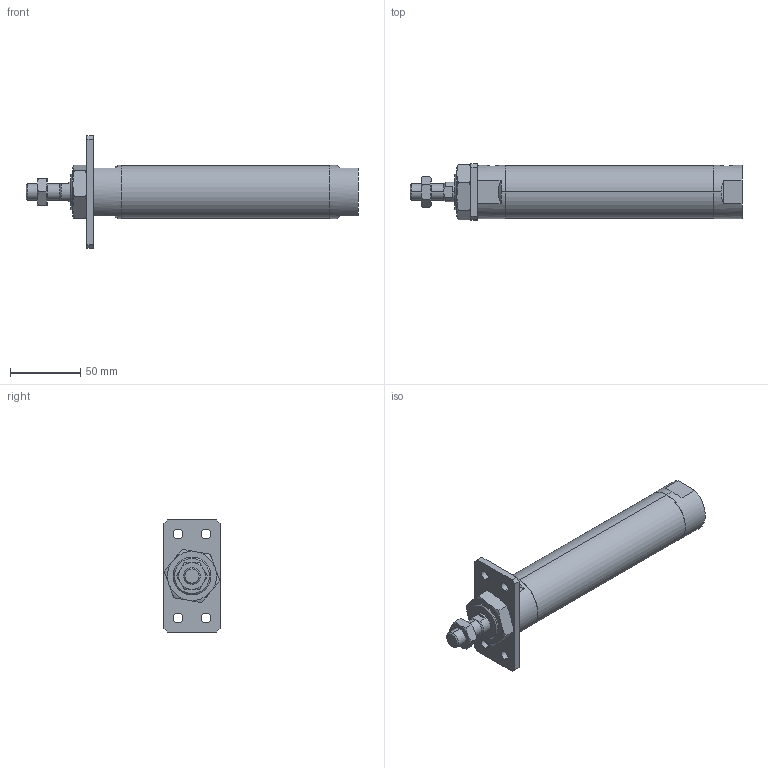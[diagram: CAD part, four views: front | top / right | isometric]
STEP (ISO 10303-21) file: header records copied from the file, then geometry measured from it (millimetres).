
FILE_DESCRIPTION (( 'STEP AP203' ), '1' );
FILE_NAME ('JGND2-32-100-A.STEP', '2016-08-04T02:51:50', ( '' ), ( '' ), 'SwSTEP 2.0', 'SolidWorks 2014', '' );
FILE_SCHEMA (( 'CONFIG_CONTROL_DESIGN' ));
Length unit declared in the file: millimetre
Products named in the file (5): J#2-32-100(P); J#2-32-A; JGND2-32-100-A
Assembly tree (4 placements, depth 2):
  JGND2-32-100-A
    J#2-32-100(P)
    (unnamed)
    (unnamed)
    J#2-32-A
Bounding box: 237 x 40 x 80 mm (x, y, z)
Volume: 237931.3 mm3; surface area: 39287.6 mm2
Topology: 4 solids, 4 shells, 109 faces, 254 edges, 155 vertices
Faces by surface type: plane 42, cylinder 30, torus 24, cone 13
Entity records: 4084 total; most frequent: CARTESIAN_POINT 1128, DIRECTION 511, ORIENTED_EDGE 500, EDGE_CURVE 250, AXIS2_PLACEMENT_3D 208, VERTEX_POINT 155, EDGE_LOOP 129, ADVANCED_FACE 109
